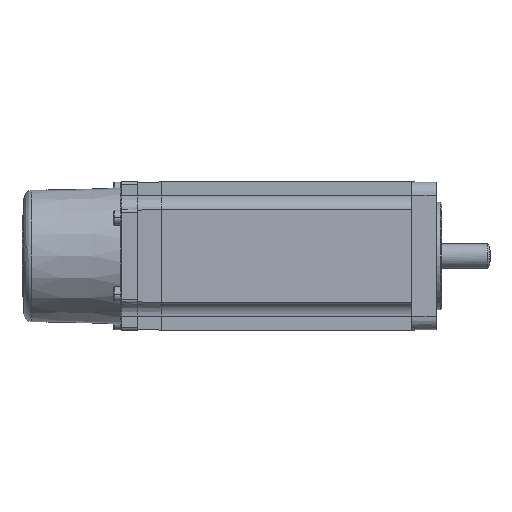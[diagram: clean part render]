
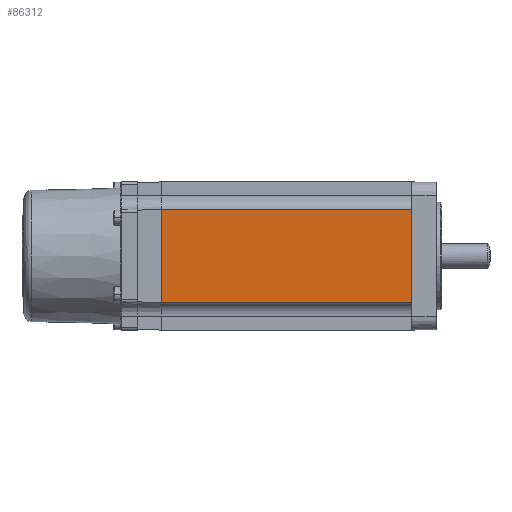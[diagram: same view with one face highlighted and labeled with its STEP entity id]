
A CAD part, front view. The second image highlights one B-rep face of the part: STEP entity #86312.
In plain terms, the highlighted planar face has unit normal (0, -1, 0) as drawn and (0, 1, 0) by its records, which use the part's own axes.
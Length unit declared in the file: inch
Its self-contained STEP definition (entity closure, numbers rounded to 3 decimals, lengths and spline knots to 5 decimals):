
#3134 = VECTOR ( 'NONE', #40015, 39.37008 ) ;
#9255 = DIRECTION ( 'NONE',  ( -1., 0., 0. ) ) ;
#12095 = ORIENTED_EDGE ( 'NONE', *, *, #37067, .F. ) ;
#12986 = VERTEX_POINT ( 'NONE', #133326 ) ;
#24420 = PLANE ( 'NONE',  #81105 ) ;
#34472 = EDGE_LOOP ( 'NONE', ( #82487, #150096, #95438, #12095 ) ) ;
#36686 = VECTOR ( 'NONE', #9255, 39.37008 ) ;
#36722 = LINE ( 'NONE', #102846, #3134 ) ;
#37067 = EDGE_CURVE ( 'NONE', #107921, #12986, #51970, .T. ) ;
#37141 = DIRECTION ( 'NONE',  ( 0., -1., 0. ) ) ;
#40015 = DIRECTION ( 'NONE',  ( 0., 0., 1. ) ) ;
#42100 = EDGE_CURVE ( 'NONE', #66277, #122747, #36722, .T. ) ;
#44988 = EDGE_CURVE ( 'NONE', #12986, #66277, #162064, .T. ) ;
#51970 = LINE ( 'NONE', #59956, #123079 ) ;
#59956 = CARTESIAN_POINT ( 'NONE',  ( -0.68007, 1.08268, -1.82677 ) ) ;
#66277 = VERTEX_POINT ( 'NONE', #138889 ) ;
#81105 = AXIS2_PLACEMENT_3D ( 'NONE', #150194, #37141, #125351 ) ;
#82487 = ORIENTED_EDGE ( 'NONE', *, *, #146457, .F. ) ;
#83038 = VECTOR ( 'NONE', #141695, 39.37008 ) ;
#84777 = CARTESIAN_POINT ( 'NONE',  ( 1.08268, 1.08268, 1.82677 ) ) ;
#86312 = ADVANCED_FACE ( 'NONE', ( #128416 ), #24420, .F. ) ;
#95438 = ORIENTED_EDGE ( 'NONE', *, *, #44988, .F. ) ;
#99812 = LINE ( 'NONE', #84777, #36686 ) ;
#102765 = CARTESIAN_POINT ( 'NONE',  ( -0.68007, 1.08268, 1.82677 ) ) ;
#102846 = CARTESIAN_POINT ( 'NONE',  ( 0.68007, 1.08268, -1.82677 ) ) ;
#107921 = VERTEX_POINT ( 'NONE', #102765 ) ;
#116293 = CARTESIAN_POINT ( 'NONE',  ( -1.08268, 1.08268, -1.82677 ) ) ;
#122747 = VERTEX_POINT ( 'NONE', #138008 ) ;
#123079 = VECTOR ( 'NONE', #148242, 39.37008 ) ;
#125351 = DIRECTION ( 'NONE',  ( 0., 0., -1. ) ) ;
#128416 = FACE_OUTER_BOUND ( 'NONE', #34472, .T. ) ;
#133326 = CARTESIAN_POINT ( 'NONE',  ( -0.68007, 1.08268, -1.82677 ) ) ;
#138008 = CARTESIAN_POINT ( 'NONE',  ( 0.68007, 1.08268, 1.82677 ) ) ;
#138889 = CARTESIAN_POINT ( 'NONE',  ( 0.68007, 1.08268, -1.82677 ) ) ;
#141695 = DIRECTION ( 'NONE',  ( 1., 0., 0. ) ) ;
#146457 = EDGE_CURVE ( 'NONE', #122747, #107921, #99812, .T. ) ;
#148242 = DIRECTION ( 'NONE',  ( 0., 0., -1. ) ) ;
#150096 = ORIENTED_EDGE ( 'NONE', *, *, #42100, .F. ) ;
#150194 = CARTESIAN_POINT ( 'NONE',  ( -1.08268, 1.08268, -1.82677 ) ) ;
#162064 = LINE ( 'NONE', #116293, #83038 ) ;
